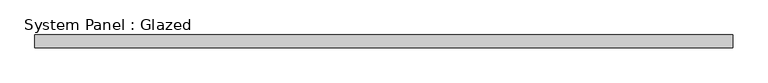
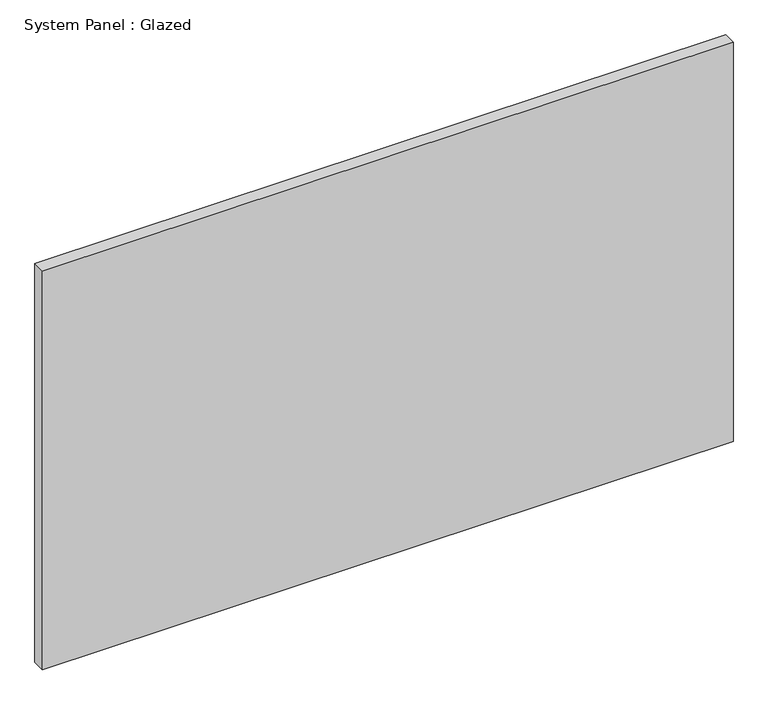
"""IFC4 building model written with IfcOpenShell, lengths in millimetres: plate geometry, System Panel : Glazed."""

from ifc_helpers import new_model, si_unit, origin, origin_with_axes, place, context, project, spatial, polyline, outline, extrude, source, transform, mapped, element, save


def system_panel_glazed_c24251bb(model_context):
    return source(origin(), model_context, "Body", "SweptSolid", [
        extrude(outline(polyline([(675.0576758, 24.5), (-675.0576758, 24.5), (-675.0576758, 49.5), (675.0576758, 49.5), (675.0576758, 24.5)])), origin_with_axes(), (0.0, 0.0, 1.0), 825.0),
    ])


if __name__ == "__main__":
    model = new_model("IFC4")
    model_context = context("Model", 3, world=origin())
    ifc_project = project(units=[si_unit("LENGTHUNIT", "METRE", prefix="MILLI")], contexts=[model_context])
    site = spatial("IfcSite", under=ifc_project)
    building = spatial("IfcBuilding", under=site)
    placement = place(None, origin())
    system_panel_glazed_shape = system_panel_glazed_c24251bb(model_context)
    element("IfcPlate", 1, ObjectType="System Panel : Glazed", at=placement, inside=building, context=model_context, shape_type="MappedRepresentation", body=[
        mapped(system_panel_glazed_shape, transform((0.0, 0.0, 0.0), x_axis=(1.0, 0.0, 0.0), y_axis=(0.0, 1.0, 0.0), z_axis=(0.0, 0.0, 1.0))),
    ])
    save(model, "model.ifc")
